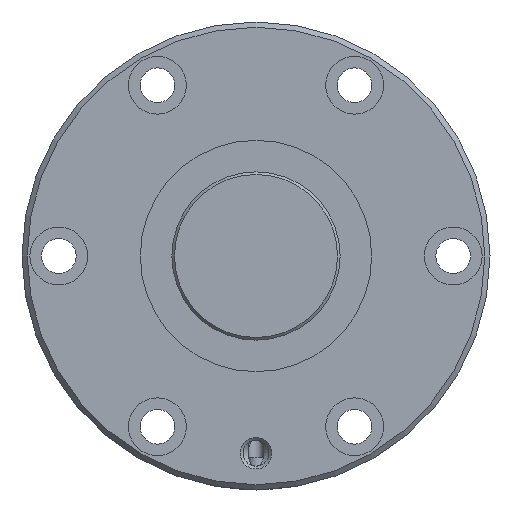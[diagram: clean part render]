
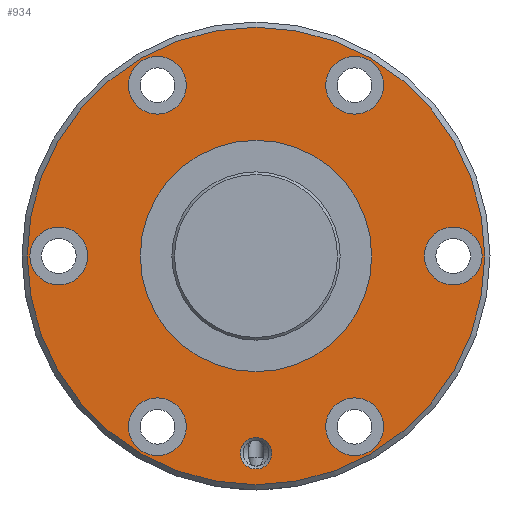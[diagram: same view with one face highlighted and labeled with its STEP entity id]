
A CAD part, left-side view. The second image highlights one B-rep face of the part: STEP entity #934.
In plain terms, the highlighted planar face has unit normal (-1, 0, 0).
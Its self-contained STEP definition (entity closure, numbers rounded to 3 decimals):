
#97=PLANE('',#1044);
#156=ORIENTED_EDGE('',*,*,#358,.T.);
#157=ORIENTED_EDGE('',*,*,#359,.T.);
#158=ORIENTED_EDGE('',*,*,#360,.T.);
#159=ORIENTED_EDGE('',*,*,#361,.T.);
#160=ORIENTED_EDGE('',*,*,#362,.T.);
#161=ORIENTED_EDGE('',*,*,#363,.T.);
#162=ORIENTED_EDGE('',*,*,#364,.T.);
#163=ORIENTED_EDGE('',*,*,#365,.T.);
#164=ORIENTED_EDGE('',*,*,#357,.F.);
#357=EDGE_CURVE('',#463,#463,#548,.T.);
#358=EDGE_CURVE('',#464,#464,#549,.T.);
#359=EDGE_CURVE('',#465,#465,#550,.F.);
#360=EDGE_CURVE('',#466,#466,#551,.T.);
#361=EDGE_CURVE('',#467,#467,#552,.T.);
#362=EDGE_CURVE('',#468,#468,#553,.T.);
#363=EDGE_CURVE('',#469,#469,#554,.T.);
#364=EDGE_CURVE('',#470,#470,#555,.T.);
#365=EDGE_CURVE('',#471,#471,#556,.T.);
#463=VERTEX_POINT('',#1564);
#464=VERTEX_POINT('',#1567);
#465=VERTEX_POINT('',#1569);
#466=VERTEX_POINT('',#1571);
#467=VERTEX_POINT('',#1573);
#468=VERTEX_POINT('',#1575);
#469=VERTEX_POINT('',#1577);
#470=VERTEX_POINT('',#1579);
#471=VERTEX_POINT('',#1581);
#548=CIRCLE('',#1043,43.5);
#549=CIRCLE('',#1045,22.);
#550=CIRCLE('',#1046,5.5);
#551=CIRCLE('',#1047,3.);
#552=CIRCLE('',#1048,5.5);
#553=CIRCLE('',#1049,5.5);
#554=CIRCLE('',#1050,5.5);
#555=CIRCLE('',#1051,5.5);
#556=CIRCLE('',#1052,5.5);
#631=EDGE_LOOP('',(#156));
#632=EDGE_LOOP('',(#157));
#633=EDGE_LOOP('',(#158));
#634=EDGE_LOOP('',(#159));
#635=EDGE_LOOP('',(#160));
#636=EDGE_LOOP('',(#161));
#637=EDGE_LOOP('',(#162));
#638=EDGE_LOOP('',(#163));
#639=EDGE_LOOP('',(#164));
#773=FACE_BOUND('',#631,.T.);
#774=FACE_BOUND('',#632,.T.);
#775=FACE_BOUND('',#633,.T.);
#776=FACE_BOUND('',#634,.T.);
#777=FACE_BOUND('',#635,.T.);
#778=FACE_BOUND('',#636,.T.);
#779=FACE_BOUND('',#637,.T.);
#780=FACE_BOUND('',#638,.T.);
#781=FACE_BOUND('',#639,.T.);
#934=ADVANCED_FACE('',(#773,#774,#775,#776,#777,#778,#779,#780,#781),#97,
 .T.);
#1043=AXIS2_PLACEMENT_3D('',#1563,#1217,#1218);
#1044=AXIS2_PLACEMENT_3D('',#1565,#1219,#1220);
#1045=AXIS2_PLACEMENT_3D('',#1566,#1221,#1222);
#1046=AXIS2_PLACEMENT_3D('',#1568,#1223,#1224);
#1047=AXIS2_PLACEMENT_3D('',#1570,#1225,#1226);
#1048=AXIS2_PLACEMENT_3D('',#1572,#1227,#1228);
#1049=AXIS2_PLACEMENT_3D('',#1574,#1229,#1230);
#1050=AXIS2_PLACEMENT_3D('',#1576,#1231,#1232);
#1051=AXIS2_PLACEMENT_3D('',#1578,#1233,#1234);
#1052=AXIS2_PLACEMENT_3D('',#1580,#1235,#1236);
#1217=DIRECTION('',(1.,0.,0.));
#1218=DIRECTION('',(0.,0.,-1.));
#1219=DIRECTION('',(-1.,0.,0.));
#1220=DIRECTION('',(0.,0.,1.));
#1221=DIRECTION('',(1.,0.,0.));
#1222=DIRECTION('',(0.,0.,-1.));
#1223=DIRECTION('',(-1.,0.,0.));
#1224=DIRECTION('',(0.,0.,1.));
#1225=DIRECTION('',(1.,0.,0.));
#1226=DIRECTION('',(0.,0.,-1.));
#1227=DIRECTION('',(1.,0.,0.));
#1228=DIRECTION('',(0.,0.,-1.));
#1229=DIRECTION('',(1.,0.,0.));
#1230=DIRECTION('',(0.,0.,-1.));
#1231=DIRECTION('',(1.,0.,0.));
#1232=DIRECTION('',(0.,0.,-1.));
#1233=DIRECTION('',(1.,0.,0.));
#1234=DIRECTION('',(0.,0.,-1.));
#1235=DIRECTION('',(1.,0.,0.));
#1236=DIRECTION('',(0.,0.,-1.));
#1563=CARTESIAN_POINT('',(0.,0.,0.));
#1564=CARTESIAN_POINT('',(0.,0.,-43.5));
#1565=CARTESIAN_POINT('',(0.,43.5,0.));
#1566=CARTESIAN_POINT('',(0.,0.,0.));
#1567=CARTESIAN_POINT('',(0.,0.,-22.));
#1568=CARTESIAN_POINT('',(0.,37.5,0.));
#1569=CARTESIAN_POINT('',(0.,37.5,5.5));
#1570=CARTESIAN_POINT('',(0.,0.,-37.5));
#1571=CARTESIAN_POINT('',(0.,0.,-40.5));
#1572=CARTESIAN_POINT('',(0.,-37.5,0.));
#1573=CARTESIAN_POINT('',(0.,-37.5,-5.5));
#1574=CARTESIAN_POINT('',(0.,18.75,32.476));
#1575=CARTESIAN_POINT('',(0.,18.75,26.976));
#1576=CARTESIAN_POINT('',(0.,-18.75,-32.476));
#1577=CARTESIAN_POINT('',(0.,-18.75,-37.976));
#1578=CARTESIAN_POINT('',(0.,-18.75,32.476));
#1579=CARTESIAN_POINT('',(0.,-18.75,26.976));
#1580=CARTESIAN_POINT('',(0.,18.75,-32.476));
#1581=CARTESIAN_POINT('',(0.,18.75,-37.976));
